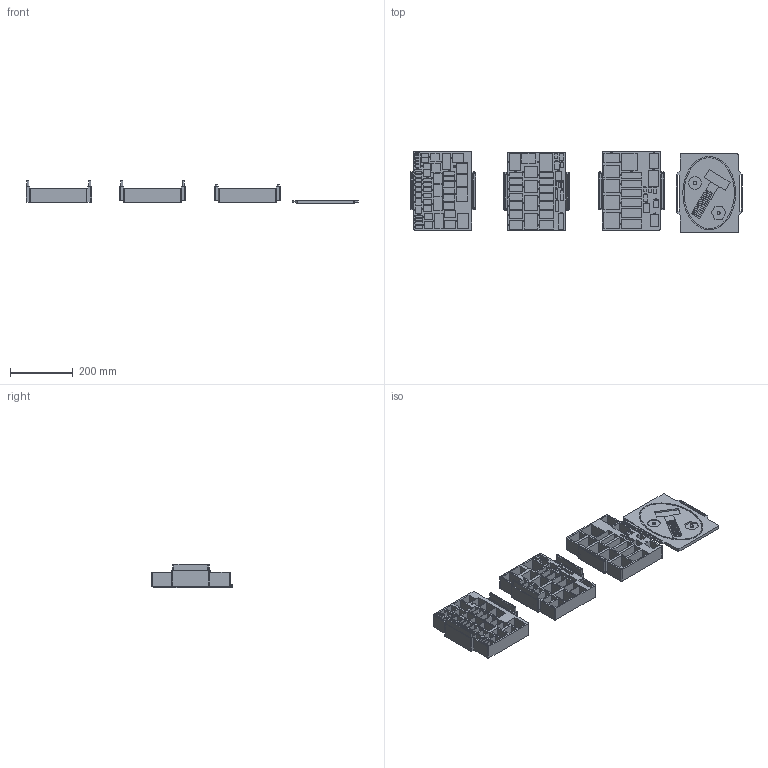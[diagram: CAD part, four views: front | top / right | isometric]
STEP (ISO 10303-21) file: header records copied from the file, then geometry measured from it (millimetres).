
FILE_DESCRIPTION(/* description */ (''),/* implementation_level */ '2;1');
FILE_NAME(/* name */ 'screw organizer.step',/* time_stamp */ '2026-07-13T21:29:26+01:00',/* author */ (''),/* organization */ (''),/* preprocessor_version */ 'ST-DEVELOPER v20.1',/* originating_system */ 'Autodesk Translation Framework v15.8.0.0',/* authorisation */ '');
FILE_SCHEMA (('AUTOMOTIVE_DESIGN { 1 0 10303 214 3 1 1 }'));
Products named in the file (1): screw organizer
Bounding box: 1056.48 x 257.31 x 75 mm (x, y, z)
Volume: 3540408.9 mm3; surface area: 1054757.6 mm2
Topology: 4 solids, 4 shells, 5410 faces, 14842 edges, 9880 vertices
Faces by surface type: bspline 3047, plane 2264, cylinder 99
Full cylindrical faces by diameter (mm): 10 x2, 40 x1
Entity records: 207350 total; most frequent: CARTESIAN_POINT 90758, ORIENTED_EDGE 29684, EDGE_CURVE 14842, DIRECTION 13668, VERTEX_POINT 9880, LINE 8540, VECTOR 8540, B_SPLINE_CURVE_WITH_KNOTS 6102
